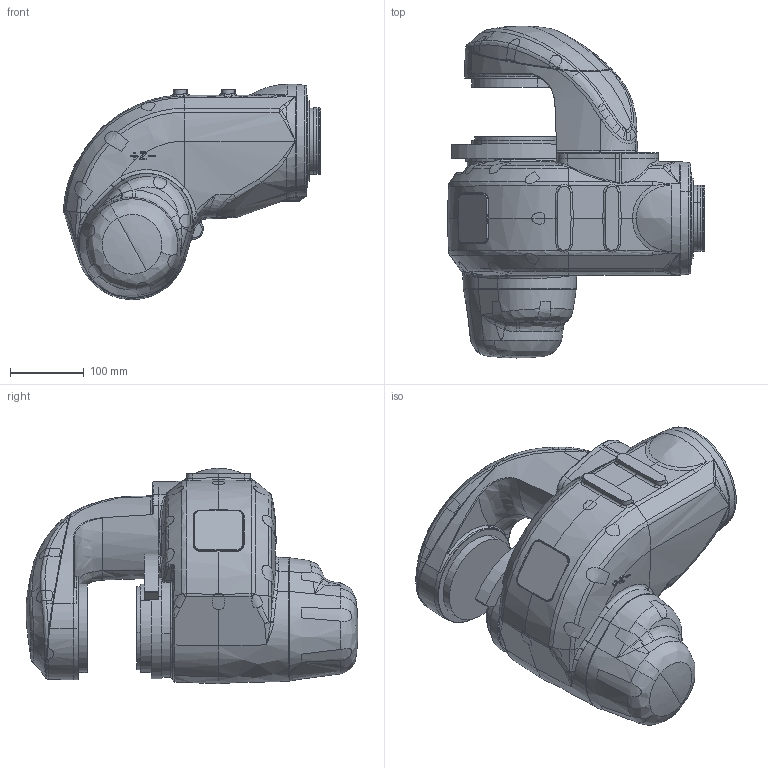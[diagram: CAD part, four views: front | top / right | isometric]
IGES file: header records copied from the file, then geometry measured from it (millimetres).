
Start section: START RECORD GO HERE.
Global section: file name: 40_MZ12_A1_ASSY.igs; native system: DASSAULT SYSTEMES CATIA Version 5-6 Release 2012 - www.3ds.com; preprocessor: V5-6R2012_5.22.4.0.11-16-2012.22.00; author: RBT00348; organization: NACHI-JP; date: 20170727.082153; units: millimetre
Bounding box: 348.68 x 450.1 x 292 mm (x, y, z)
Volume: 13687490.3 mm3; surface area: 499998.2 mm2
Topology: 2 solids, 15 shells, 817 faces, 2132 edges, 1295 vertices
Faces by surface type: bspline 817
